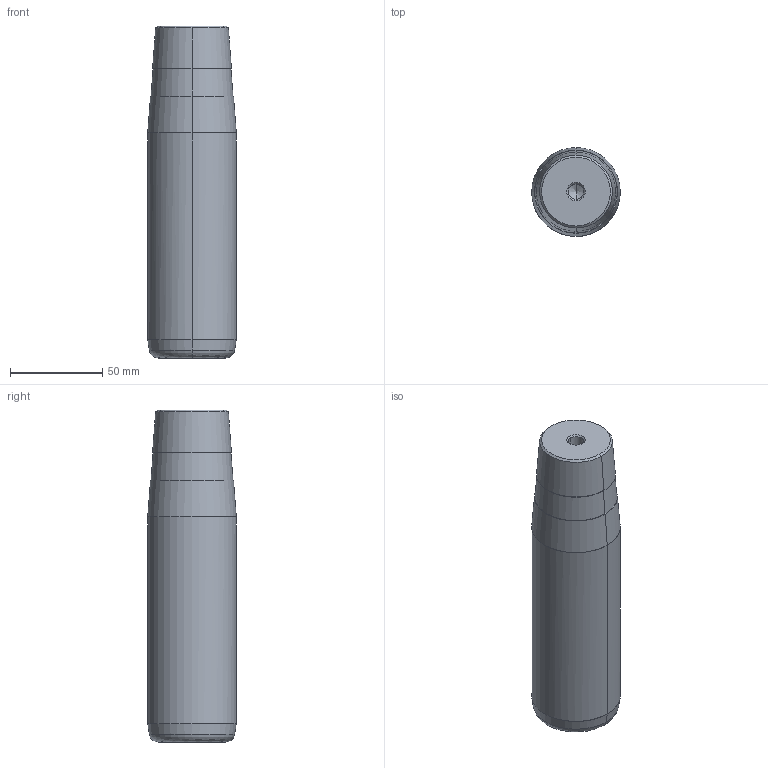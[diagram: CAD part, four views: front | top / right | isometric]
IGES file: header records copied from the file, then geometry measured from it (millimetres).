
Start section: START RECORD GO HERE.
Global section: file name: 722-48x140x180.igs; native system: DASSAULT SYSTEMES CATIA V5 R20 - www.3ds.com; preprocessor: CATIA Version 5 Release 20 ; author: Utente; organization: NB04-ASUS; date: 20210108.160552; units: millimetre
Bounding box: 48 x 48 x 180 mm (x, y, z)
Surface area: 30278.2 mm2 (no closed solid volume)
Topology: 0 solids, 0 shells, 32 faces, 192 edges, 188 vertices
Faces by surface type: revolution 30, plane 2
